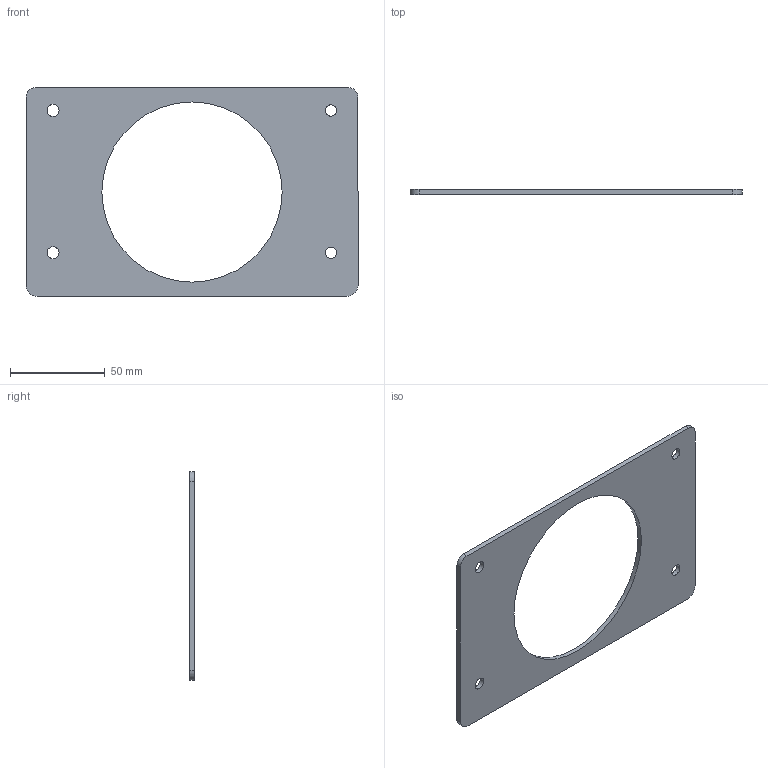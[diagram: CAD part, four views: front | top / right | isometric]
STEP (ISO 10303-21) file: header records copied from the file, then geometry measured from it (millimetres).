
FILE_DESCRIPTION( ( 'Unknown' ), '1' );
FILE_NAME( 'F:/navkite transat/construction/2016/3D ET ASSEMBLAGES/AMI/AMI 08.stp', 'Unknown', ( 'GMA' ), ( 'Unknown' ), 'XStep 1.0', 'Unknown', ' ' );
FILE_SCHEMA( ( 'automotive_design' ) );
Length unit declared in the file: millimetre
Products named in the file (1): 1
Bounding box: 175 x 2.5 x 110 mm (x, y, z)
Volume: 30041.3 mm3; surface area: 26375 mm2
Topology: 1 solids, 1 shells, 15 faces, 40 edges, 27 vertices
Faces by surface type: cylinder 9, plane 6
Full cylindrical faces by diameter (mm): 6 x2, 6.35 x2, 95 x1
Entity records: 602 total; most frequent: DIRECTION 84, CARTESIAN_POINT 76, ORIENTED_EDGE 68, AXIS2_PLACEMENT_3D 34, EDGE_CURVE 34, EDGE_LOOP 30, VERTEX_POINT 26, FACE_OUTER_BOUND 20
